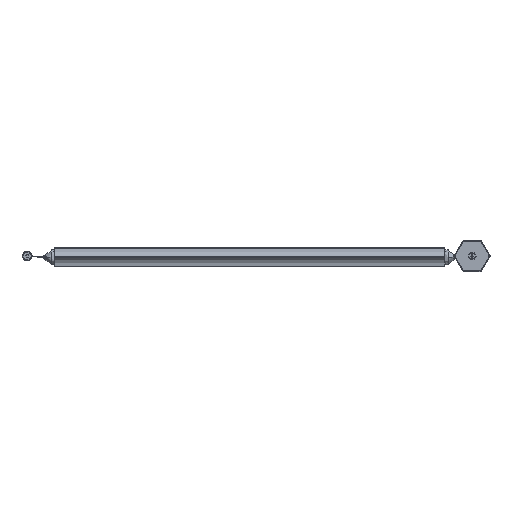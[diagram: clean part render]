
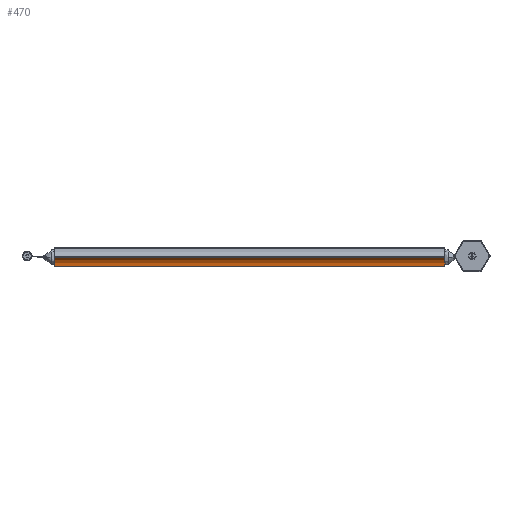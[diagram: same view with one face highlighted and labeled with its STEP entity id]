
A CAD part, top view. The second image highlights one B-rep face of the part: STEP entity #470.
In plain terms, the highlighted cylindrical face has radius 15 mm (diameter 30 mm), a partial arc.
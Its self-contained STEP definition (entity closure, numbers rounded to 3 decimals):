
#127=TRIMMED_CURVE($,#258,(#7777),(#7778),.T.,.CARTESIAN.);
#128=TRIMMED_CURVE($,#259,(#7780),(#7781),.T.,.CARTESIAN.);
#258=CIRCLE('',#2433,15.);
#259=CIRCLE('',#2434,15.);
#355=CYLINDRICAL_SURFACE('',#2407,15.);
#470=ADVANCED_FACE('',(#594),#355,.F.);
#594=FACE_OUTER_BOUND('',#728,.T.);
#728=EDGE_LOOP('',(#1080,#1081,#1082,#1083));
#1080=ORIENTED_EDGE('',*,*,#1586,.F.);
#1081=ORIENTED_EDGE('',*,*,#1569,.F.);
#1082=ORIENTED_EDGE('',*,*,#1587,.F.);
#1083=ORIENTED_EDGE('',*,*,#1566,.F.);
#1566=EDGE_CURVE('',#2052,#2041,#1838,.T.);
#1569=EDGE_CURVE('',#2042,#2051,#1841,.T.);
#1586=EDGE_CURVE('',#2051,#2052,#127,.T.);
#1587=EDGE_CURVE('',#2041,#2042,#128,.T.);
#1838=B_SPLINE_CURVE_WITH_KNOTS('',1,(#7726,#7727),.UNSPECIFIED.,.F.,.F.,
(2,2),(0.,600.),.UNSPECIFIED.);
#1841=B_SPLINE_CURVE_WITH_KNOTS('',1,(#7732,#7733),.UNSPECIFIED.,.F.,.F.,
(2,2),(0.,600.),.UNSPECIFIED.);
#2041=VERTEX_POINT('',#7596);
#2042=VERTEX_POINT('',#7597);
#2051=VERTEX_POINT('',#7606);
#2052=VERTEX_POINT('',#7607);
#2407=AXIS2_PLACEMENT_3D('',#7556,#2704,$);
#2433=AXIS2_PLACEMENT_3D($,#7776,#2748,#2749);
#2434=AXIS2_PLACEMENT_3D($,#7779,#2750,#2751);
#2704=DIRECTION('',(-1.,0.,0.));
#2748=DIRECTION('',(-1.,0.,0.));
#2749=DIRECTION('',(0.,0.866,-0.5));
#2750=DIRECTION('',(1.,0.,0.));
#2751=DIRECTION('',(0.,0.,-1.));
#7556=CARTESIAN_POINT('',(3423.52,-1.327,42.911));
#7596=CARTESIAN_POINT('',(3123.52,-1.327,27.911));
#7597=CARTESIAN_POINT('',(3123.52,11.663,35.411));
#7606=CARTESIAN_POINT('',(3723.52,11.663,35.411));
#7607=CARTESIAN_POINT('',(3723.52,-1.327,27.911));
#7726=CARTESIAN_POINT('',(3723.52,-1.327,27.911));
#7727=CARTESIAN_POINT('',(3123.52,-1.327,27.911));
#7732=CARTESIAN_POINT('',(3123.52,11.663,35.411));
#7733=CARTESIAN_POINT('',(3723.52,11.663,35.411));
#7776=CARTESIAN_POINT('',(3723.52,-1.327,42.911));
#7777=CARTESIAN_POINT('',(3723.52,11.663,35.411));
#7778=CARTESIAN_POINT('',(3723.52,-1.327,27.911));
#7779=CARTESIAN_POINT('',(3123.52,-1.327,42.911));
#7780=CARTESIAN_POINT('',(3123.52,-1.327,27.911));
#7781=CARTESIAN_POINT('',(3123.52,11.663,35.411));
